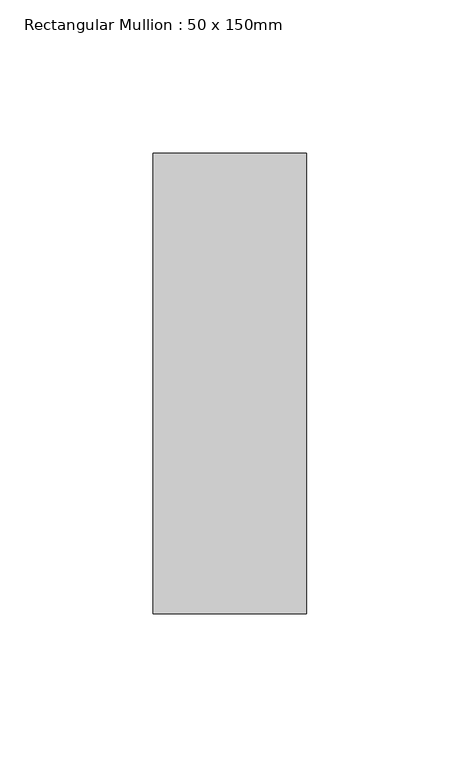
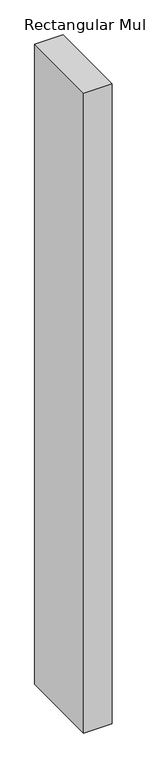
"""IFC4 building model written with IfcOpenShell, lengths in millimetres: member geometry, Rectangular Mullion : 50 x 150mm."""

from ifc_helpers import new_model, si_unit, frame, origin, place, context, project, spatial, polyline, outline, extrude, source, transform, mapped, element, save


def rectangular_mullion_50_x_150mm_ab7a2645(model_context):
    return source(origin(), model_context, "Body", "SweptSolid", [
        extrude(outline(polyline([(25.0, 75.0), (25.0, -75.0), (-25.0, -75.0), (-25.0, 75.0), (25.0, 75.0)])), frame((0.0, 0.0, -1194.625), z_axis=(0.0, 0.0, 1.0), x_axis=(1.0, 0.0, 0.0)), (0.0, 0.0, 1.0), 1194.625),
    ])


if __name__ == "__main__":
    model = new_model("IFC4")
    model_context = context("Model", 3, world=origin())
    ifc_project = project(units=[si_unit("LENGTHUNIT", "METRE", prefix="MILLI")], contexts=[model_context])
    site = spatial("IfcSite", under=ifc_project)
    building = spatial("IfcBuilding", under=site)
    placement = place(None, origin())
    rectangular_mullion_50_x_150mm_shape = rectangular_mullion_50_x_150mm_ab7a2645(model_context)
    element("IfcMember", 1, ObjectType="Rectangular Mullion : 50 x 150mm", at=placement, inside=building, context=model_context, shape_type="MappedRepresentation", body=[
        mapped(rectangular_mullion_50_x_150mm_shape, transform((0.0, 0.0, 0.0), x_axis=(1.0, 0.0, 0.0), y_axis=(0.0, 1.0, 0.0), z_axis=(0.0, 0.0, 1.0))),
    ])
    save(model, "model.ifc")
